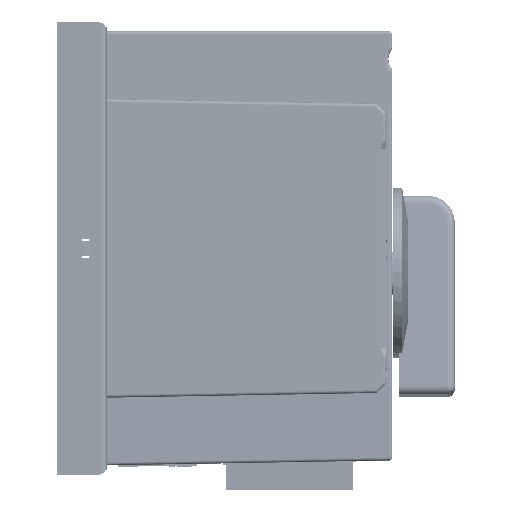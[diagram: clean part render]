
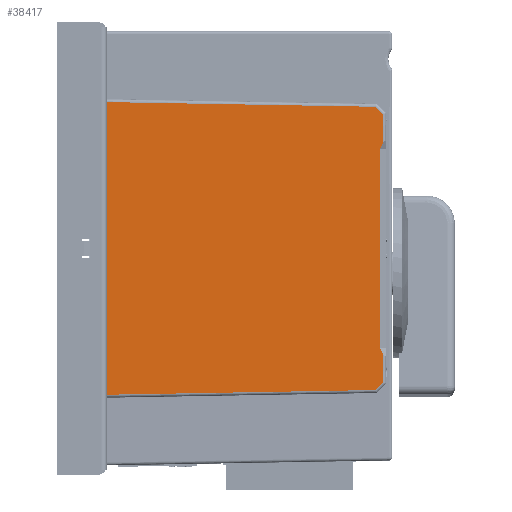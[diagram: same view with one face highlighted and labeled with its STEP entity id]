
A CAD part, left-side view. The second image highlights one B-rep face of the part: STEP entity #38417.
In plain terms, the highlighted planar face has unit normal (-1, -0.018, 0).
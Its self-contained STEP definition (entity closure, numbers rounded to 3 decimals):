
#38417=ADVANCED_FACE('',(#70974),#53973,.T.);
#53973=PLANE('',#421879);
#70974=FACE_OUTER_BOUND('',#91720,.T.);
#91720=EDGE_LOOP('',(#182959,#182960,#182961,#182962,#182963,#182964,#182965,
#182966,#182967,#182968));
#182959=ORIENTED_EDGE('',*,*,#292869,.T.);
#182960=ORIENTED_EDGE('',*,*,#292866,.T.);
#182961=ORIENTED_EDGE('',*,*,#292863,.T.);
#182962=ORIENTED_EDGE('',*,*,#292860,.F.);
#182963=ORIENTED_EDGE('',*,*,#292859,.T.);
#182964=ORIENTED_EDGE('',*,*,#293232,.T.);
#182965=ORIENTED_EDGE('',*,*,#293233,.T.);
#182966=ORIENTED_EDGE('',*,*,#293234,.T.);
#182967=ORIENTED_EDGE('',*,*,#292857,.T.);
#182968=ORIENTED_EDGE('',*,*,#292856,.F.);
#231563=VERTEX_POINT('',#639365);
#231569=VERTEX_POINT('',#639380);
#235678=VERTEX_POINT('',#657692);
#235680=VERTEX_POINT('',#657698);
#235681=VERTEX_POINT('',#657702);
#235682=VERTEX_POINT('',#657711);
#235684=VERTEX_POINT('',#657717);
#235686=VERTEX_POINT('',#657723);
#235891=VERTEX_POINT('',#659163);
#235892=VERTEX_POINT('',#659167);
#292856=EDGE_CURVE('',#235680,#231563,#344359,.T.);
#292857=EDGE_CURVE('',#235681,#231563,#344360,.T.);
#292859=EDGE_CURVE('',#231569,#235678,#344361,.T.);
#292860=EDGE_CURVE('',#231569,#235682,#344362,.T.);
#292863=EDGE_CURVE('',#235684,#235682,#344364,.T.);
#292866=EDGE_CURVE('',#235686,#235684,#344367,.T.);
#292869=EDGE_CURVE('',#235680,#235686,#344370,.T.);
#293232=EDGE_CURVE('',#235678,#235891,#344660,.T.);
#293233=EDGE_CURVE('',#235891,#235892,#344661,.T.);
#293234=EDGE_CURVE('',#235892,#235681,#344662,.T.);
#344359=LINE('',#657699,#393923);
#344360=LINE('',#657701,#393924);
#344361=LINE('',#657708,#393925);
#344362=LINE('',#657710,#393926);
#344364=LINE('',#657716,#393928);
#344367=LINE('',#657722,#393931);
#344370=LINE('',#657728,#393934);
#344660=LINE('',#659164,#394224);
#344661=LINE('',#659166,#394225);
#344662=LINE('',#659168,#394226);
#393923=VECTOR('',#502672,1.);
#393924=VECTOR('',#502675,1.);
#393925=VECTOR('',#502678,1.);
#393926=VECTOR('',#502681,1.);
#393928=VECTOR('',#502687,1.);
#393931=VECTOR('',#502692,1.);
#393934=VECTOR('',#502697,1.);
#394224=VECTOR('',#503397,1.);
#394225=VECTOR('',#503400,1.);
#394226=VECTOR('',#503401,1.);
#421879=AXIS2_PLACEMENT_3D('',#659169,#503402,#503403);
#502672=DIRECTION('',(0.,0.,-1.));
#502675=DIRECTION('',(0.012,-0.707,0.707));
#502678=DIRECTION('',(-0.012,0.707,0.707));
#502681=DIRECTION('',(0.,0.,-1.));
#502687=DIRECTION('',(0.008,-0.464,0.886));
#502692=DIRECTION('',(0.,0.,1.));
#502697=DIRECTION('',(-0.008,0.464,0.886));
#503397=DIRECTION('',(-0.017,1.,0.017));
#503400=DIRECTION('',(0.,0.,-1.));
#503401=DIRECTION('',(0.017,-1.,0.017));
#503402=DIRECTION('',(-1.,-0.017,0.));
#503403=DIRECTION('',(-0.017,1.,0.));
#639365=CARTESIAN_POINT('',(247.528,-5.174,-127.418));
#639380=CARTESIAN_POINT('',(247.528,-5.174,-40.846));
#657692=CARTESIAN_POINT('',(247.486,-2.797,-38.469));
#657698=CARTESIAN_POINT('',(247.528,-5.174,-118.118));
#657699=CARTESIAN_POINT('',(247.528,-5.174,-118.118));
#657701=CARTESIAN_POINT('',(247.486,-2.797,-129.795));
#657702=CARTESIAN_POINT('',(247.486,-2.797,-129.795));
#657708=CARTESIAN_POINT('',(247.528,-5.174,-40.846));
#657710=CARTESIAN_POINT('',(247.528,-5.174,-40.846));
#657711=CARTESIAN_POINT('',(247.528,-5.174,-50.145));
#657716=CARTESIAN_POINT('',(247.51,-4.121,-52.155));
#657717=CARTESIAN_POINT('',(247.51,-4.121,-52.155));
#657722=CARTESIAN_POINT('',(247.51,-4.121,-116.108));
#657723=CARTESIAN_POINT('',(247.51,-4.121,-116.108));
#657728=CARTESIAN_POINT('',(247.528,-5.174,-118.118));
#659163=CARTESIAN_POINT('',(245.974,83.843,-36.957));
#659164=CARTESIAN_POINT('',(247.486,-2.797,-38.469));
#659166=CARTESIAN_POINT('',(245.974,83.843,-36.957));
#659167=CARTESIAN_POINT('',(245.974,83.843,-131.307));
#659168=CARTESIAN_POINT('',(245.974,83.843,-131.307));
#659169=CARTESIAN_POINT('',(247.545,-6.157,-84.132));
